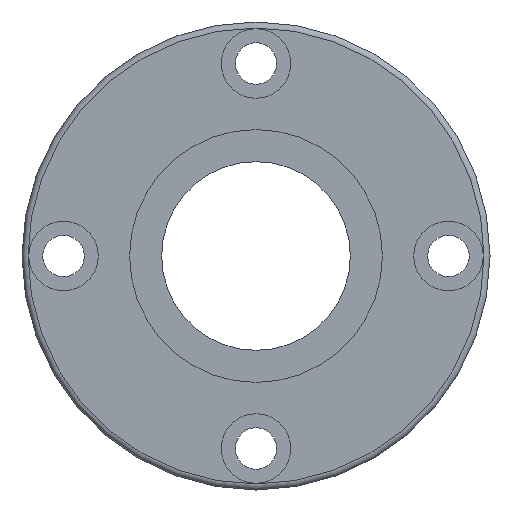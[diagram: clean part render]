
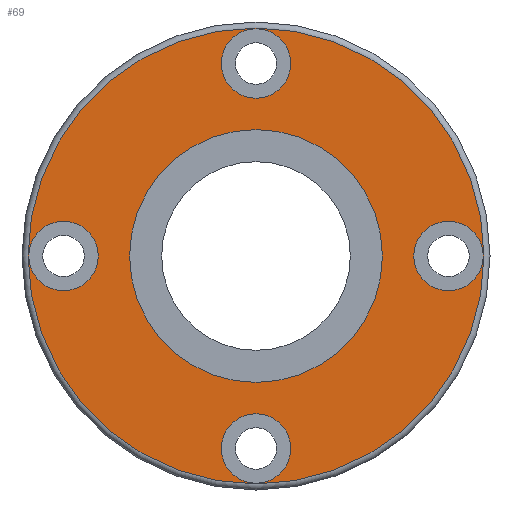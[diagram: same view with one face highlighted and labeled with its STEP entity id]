
A CAD part, left-side view. The second image highlights one B-rep face of the part: STEP entity #69.
In plain terms, the highlighted planar face has unit normal (-1, 0, 0).
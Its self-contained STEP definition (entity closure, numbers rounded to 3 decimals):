
#69 = ADVANCED_FACE( '', ( #162, #163, #164, #165, #166, #167 ), #168, .T. );
#162 = FACE_BOUND( '', #285, .T. );
#163 = FACE_BOUND( '', #286, .T. );
#164 = FACE_BOUND( '', #287, .T. );
#165 = FACE_BOUND( '', #288, .T. );
#166 = FACE_BOUND( '', #289, .T. );
#167 = FACE_OUTER_BOUND( '', #290, .T. );
#168 = PLANE( '', #291 );
#285 = EDGE_LOOP( '', ( #420 ) );
#286 = EDGE_LOOP( '', ( #421 ) );
#287 = EDGE_LOOP( '', ( #422 ) );
#288 = EDGE_LOOP( '', ( #423 ) );
#289 = EDGE_LOOP( '', ( #424 ) );
#290 = EDGE_LOOP( '', ( #425 ) );
#291 = AXIS2_PLACEMENT_3D( '', #426, #427, #428 );
#420 = ORIENTED_EDGE( '', *, *, #559, .T. );
#421 = ORIENTED_EDGE( '', *, *, #560, .T. );
#422 = ORIENTED_EDGE( '', *, *, #561, .T. );
#423 = ORIENTED_EDGE( '', *, *, #562, .T. );
#424 = ORIENTED_EDGE( '', *, *, #563, .F. );
#425 = ORIENTED_EDGE( '', *, *, #556, .T. );
#426 = CARTESIAN_POINT( '', ( 0., 23.775, 0. ) );
#427 = DIRECTION( '', ( -1., 0., 0. ) );
#428 = DIRECTION( '', ( 0., 1., 0. ) );
#556 = EDGE_CURVE( '', #630, #630, #631, .T. );
#559 = EDGE_CURVE( '', #635, #635, #636, .T. );
#560 = EDGE_CURVE( '', #637, #637, #638, .T. );
#561 = EDGE_CURVE( '', #639, #639, #640, .T. );
#562 = EDGE_CURVE( '', #641, #641, #642, .T. );
#563 = EDGE_CURVE( '', #643, #643, #644, .T. );
#630 = VERTEX_POINT( '', #719 );
#631 = CIRCLE( '', #720, 30.2 );
#635 = VERTEX_POINT( '', #724 );
#636 = CIRCLE( '', #725, 4.6 );
#637 = VERTEX_POINT( '', #726 );
#638 = CIRCLE( '', #727, 4.6 );
#639 = VERTEX_POINT( '', #728 );
#640 = CIRCLE( '', #729, 4.6 );
#641 = VERTEX_POINT( '', #730 );
#642 = CIRCLE( '', #731, 4.6 );
#643 = VERTEX_POINT( '', #732 );
#644 = CIRCLE( '', #733, 16.75 );
#719 = CARTESIAN_POINT( '', ( 0., 30.2, 0. ) );
#720 = AXIS2_PLACEMENT_3D( '', #815, #816, #817 );
#724 = CARTESIAN_POINT( '', ( 0., 0., -30.1 ) );
#725 = AXIS2_PLACEMENT_3D( '', #821, #822, #823 );
#726 = CARTESIAN_POINT( '', ( 0., 0., 30.1 ) );
#727 = AXIS2_PLACEMENT_3D( '', #824, #825, #826 );
#728 = CARTESIAN_POINT( '', ( 0., 30.1, 0. ) );
#729 = AXIS2_PLACEMENT_3D( '', #827, #828, #829 );
#730 = CARTESIAN_POINT( '', ( 0., -30.1, 0. ) );
#731 = AXIS2_PLACEMENT_3D( '', #830, #831, #832 );
#732 = CARTESIAN_POINT( '', ( 0., 16.75, 0. ) );
#733 = AXIS2_PLACEMENT_3D( '', #833, #834, #835 );
#815 = CARTESIAN_POINT( '', ( 0., 0., 0. ) );
#816 = DIRECTION( '', ( -1., 0., 0. ) );
#817 = DIRECTION( '', ( 0., 0., 1. ) );
#821 = CARTESIAN_POINT( '', ( 0., 0., -25.5 ) );
#822 = DIRECTION( '', ( 1., 0., 0. ) );
#823 = DIRECTION( '', ( 0., 0., -1. ) );
#824 = CARTESIAN_POINT( '', ( 0., 0., 25.5 ) );
#825 = DIRECTION( '', ( 1., 0., 0. ) );
#826 = DIRECTION( '', ( 0., 0., 1. ) );
#827 = CARTESIAN_POINT( '', ( 0., 25.5, 0. ) );
#828 = DIRECTION( '', ( 1., 0., 0. ) );
#829 = DIRECTION( '', ( 0., 1., 0. ) );
#830 = CARTESIAN_POINT( '', ( 0., -25.5, 0. ) );
#831 = DIRECTION( '', ( 1., 0., 0. ) );
#832 = DIRECTION( '', ( 0., -1., 0. ) );
#833 = CARTESIAN_POINT( '', ( 0., 0., 0. ) );
#834 = DIRECTION( '', ( -1., 0., 0. ) );
#835 = DIRECTION( '', ( 0., 1., 0. ) );
